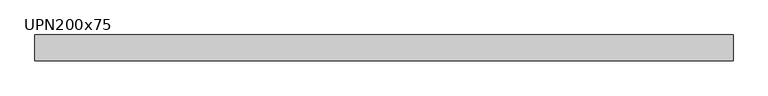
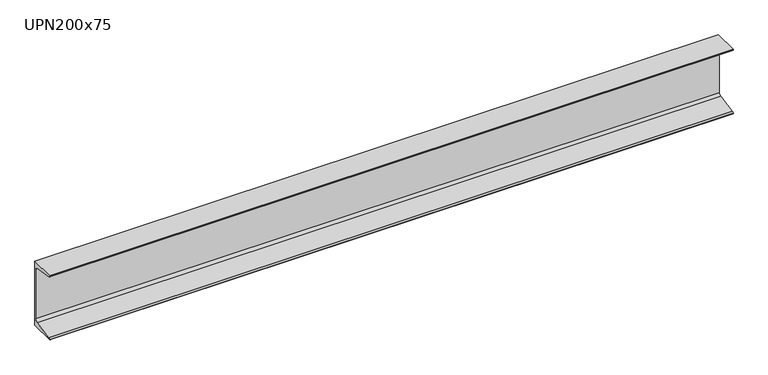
"""IFC4 building model written with IfcOpenShell, lengths in millimetres: beam geometry, M_MC Shapes : UPN200x75."""

from ifc_helpers import new_model, si_unit, point, frame, frame_2d, origin, place, context, project, spatial, polyline, circle_curve, trimmed, segment, composite_curve, outline, extrude, source, transform, mapped, element, save


def upn200x75_e9c3a9f1(model_context):
    return source(origin(), model_context, "Body", "SweptSolid", [
        extrude(outline(composite_curve([segment(polyline([(10.9, 100.0), (10.9, -100.0), (-64.1, -100.0), (-64.1, -99.0253247)]), True, "CONTINUOUS"), segment(trimmed(circle_curve(frame_2d((-60.15, -99.0253247)), 3.95), [point((-64.1, -99.0253247))], [point((-60.7993773, -95.1290689))], False, "CARTESIAN"), True, "CONTINUOUS"), segment(polyline([(-60.7993773, -95.1290689), (-0.2512455, -85.0376935)]), True, "CONTINUOUS"), segment(trimmed(circle_curve(frame_2d((-1.55, -77.2451819)), 7.9), [point((-0.2512455, -85.0376935))], [point((6.35, -77.2451819))], True, "CARTESIAN"), True, "CONTINUOUS"), segment(polyline([(6.35, -77.2451819), (6.35, 77.2451819)]), True, "CONTINUOUS"), segment(trimmed(circle_curve(frame_2d((-1.55, 77.2451819)), 7.9), [point((6.35, 77.2451819))], [point((-0.2512455, 85.0376935))], True, "CARTESIAN"), True, "CONTINUOUS"), segment(polyline([(-0.2512455, 85.0376935), (-60.7993773, 95.1290689)]), True, "CONTINUOUS"), segment(trimmed(circle_curve(frame_2d((-60.15, 99.0253247)), 3.95), [point((-60.7993773, 95.1290689))], [point((-64.1, 99.0253247))], False, "CARTESIAN"), True, "CONTINUOUS"), segment(polyline([(-64.1, 99.0253247), (-64.1, 100.0), (10.9, 100.0)]), True, "CONTINUOUS")], self_intersect=False)), frame((-1009.0, 0.0, 0.0), z_axis=(1.0, 0.0, 0.0), x_axis=(0.0, 1.0, 0.0)), (0.0, 0.0, 1.0), 2018.0),
    ])


if __name__ == "__main__":
    model = new_model("IFC4")
    model_context = context("Model", 3, world=origin())
    ifc_project = project(units=[si_unit("LENGTHUNIT", "METRE", prefix="MILLI")], contexts=[model_context])
    site = spatial("IfcSite", under=ifc_project)
    building = spatial("IfcBuilding", under=site)
    placement = place(None, origin())
    upn200x75_shape = upn200x75_e9c3a9f1(model_context)
    element("IfcBeam", 1, ObjectType="M_MC Shapes : UPN200x75", at=placement, inside=building, context=model_context, shape_type="MappedRepresentation", body=[
        mapped(upn200x75_shape, transform((0.0, 0.0, 0.0), x_axis=(1.0, 0.0, 0.0), y_axis=(0.0, 1.0, 0.0), z_axis=(0.0, 0.0, 1.0))),
    ])
    save(model, "model.ifc")
